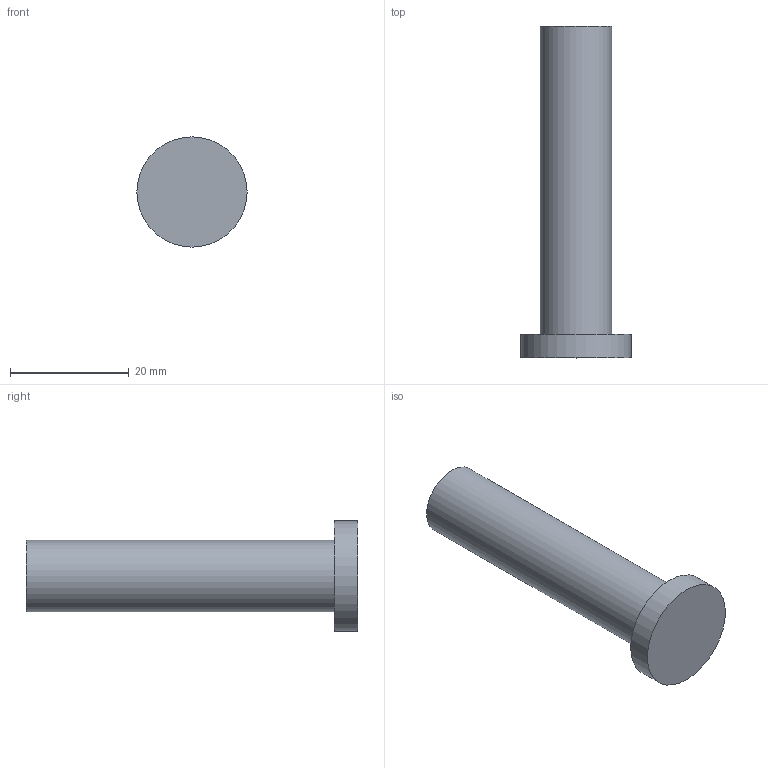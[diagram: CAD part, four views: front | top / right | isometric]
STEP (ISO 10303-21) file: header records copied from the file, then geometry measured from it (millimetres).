
FILE_DESCRIPTION(('Open CASCADE Model'),'2;1');
FILE_NAME('Open CASCADE Shape Model','2026-10-20T13:19:55',('Author'),( 'Open CASCADE'),'Open CASCADE STEP processor 7.9','Open CASCADE 7.9' ,'Unknown');
FILE_SCHEMA(('AUTOMOTIVE_DESIGN { 1 0 10303 214 1 1 1 1 }'));
Length unit declared in the file: millimetre
Products named in the file (1): Open CASCADE STEP translator 7.9 88
Bounding box: 18.6 x 56 x 18.6 mm (x, y, z)
Volume: 6967.9 mm3; surface area: 2737.5 mm2
Topology: 1 solids, 1 shells, 5 faces, 6 edges, 4 vertices
Faces by surface type: plane 3, cylinder 2
Full cylindrical faces by diameter (mm): 12 x1, 18.6 x1
Entity records: 192 total; most frequent: DIRECTION 34, CARTESIAN_POINT 28, ORIENTED_EDGE 12, PCURVE 12, DEFINITIONAL_REPRESENTATION 12, AXIS2_PLACEMENT_3D 10, LINE 10, VECTOR 10
